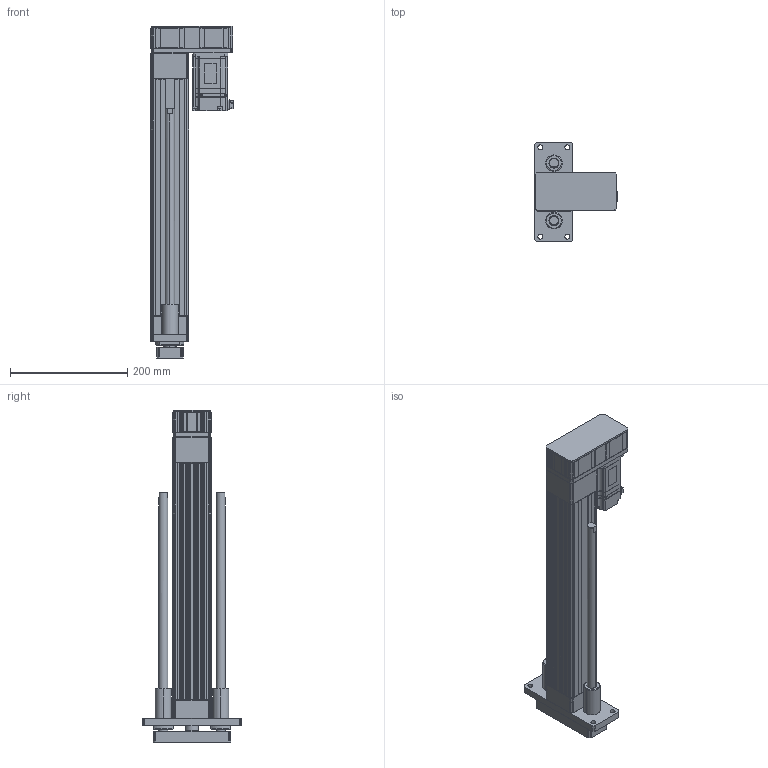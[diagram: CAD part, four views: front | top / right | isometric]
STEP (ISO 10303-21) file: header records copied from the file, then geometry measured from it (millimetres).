
FILE_DESCRIPTION (( 'STEP AP203' ), '1' );
FILE_NAME ('ANS065R-GP300-05(10)(20)-W40.STEP', '2019-03-01T08:57:44', ( 'user' ), ( '' ), 'SwSTEP 2.0', 'SolidWorks 2013', '' );
FILE_SCHEMA (( 'CONFIG_CONTROL_DESIGN' ));
Length unit declared in the file: millimetre
Products named in the file (4): sgmjv_04a_a21; ANS065R-GP300-05(10)(20)-W40; ANS065R GP300 VER2; ANS065 ROD ST300 G
Assembly tree (3 placements, depth 2):
  ANS065R-GP300-05(10)(20)-W40
    ANS065R GP300 VER2
    ANS065 ROD ST300 G
    sgmjv_04a_a21
Bounding box: 140.3 x 170 x 566 mm (x, y, z)
Volume: 2081141.2 mm3; surface area: 517381.6 mm2
Topology: 3 solids, 19 shells, 1720 faces, 4439 edges, 2846 vertices
Faces by surface type: plane 1030, cylinder 504, cone 182, torus 4
Entity records: 52345 total; most frequent: CARTESIAN_POINT 9317, DIRECTION 8915, ORIENTED_EDGE 8830, EDGE_CURVE 4415, VECTOR 3163, LINE 3163, AXIS2_PLACEMENT_3D 2876, VERTEX_POINT 2846
